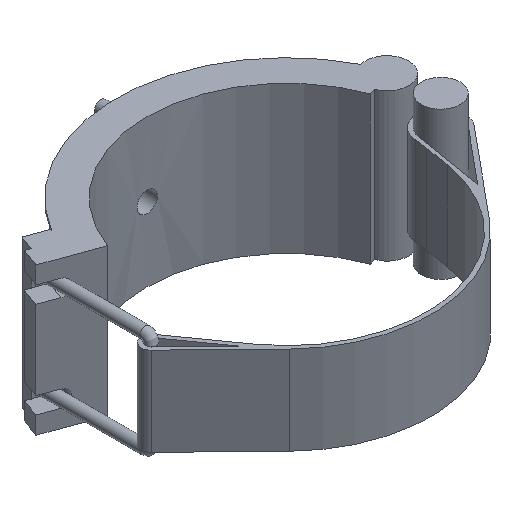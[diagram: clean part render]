
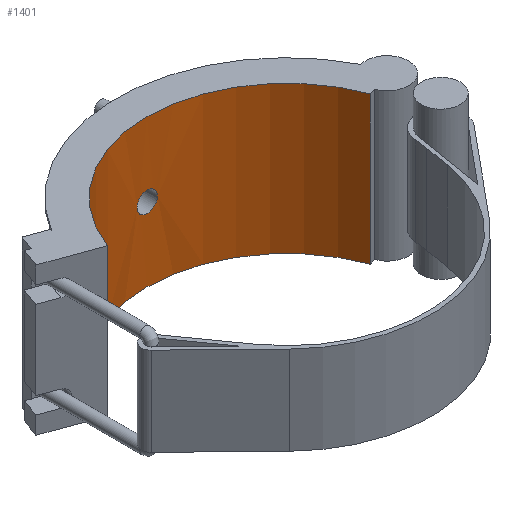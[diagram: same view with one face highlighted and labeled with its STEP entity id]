
A CAD part, isometric view. The second image highlights one B-rep face of the part: STEP entity #1401.
In plain terms, the highlighted cylindrical face has radius 166.9 mm (diameter 333.8 mm), a partial arc.
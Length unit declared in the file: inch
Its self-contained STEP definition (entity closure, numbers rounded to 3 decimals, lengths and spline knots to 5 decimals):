
#31=B_SPLINE_CURVE_WITH_KNOTS('',3,(#2500,#2501,#2502,#2503,#2504,#2505,
#2506,#2507,#2508,#2509,#2510,#2511,#2512,#2513,#2514,#2515,#2516,#2517,
#2518,#2519,#2520,#2521,#2522,#2523,#2524,#2525,#2526,#2527,#2528,#2529,
#2530,#2531,#2532,#2533),.UNSPECIFIED.,.T.,.F.,(4,2,2,2,2,2,2,2,2,2,2,2,
2,2,2,2,4),(0.,0.45658,0.91316,1.36974,1.82632,
2.2829,2.73949,3.19607,3.65265,4.10923,
4.56581,5.02239,5.47897,5.93555,6.39213,
6.84871,7.3053),.UNSPECIFIED.);
#56=CYLINDRICAL_SURFACE('',#1553,6.57087);
#81=FACE_BOUND('',#305,.T.);
#127=CIRCLE('',#1519,6.57087);
#138=CIRCLE('',#1551,6.57087);
#213=FACE_OUTER_BOUND('',#304,.T.);
#304=EDGE_LOOP('',(#1213,#1214,#1215,#1216));
#305=EDGE_LOOP('',(#1217));
#362=LINE('',#2154,#476);
#436=LINE('',#2497,#550);
#476=VECTOR('',#1694,0.3937);
#550=VECTOR('',#1912,0.3937);
#613=VERTEX_POINT('',#2151);
#614=VERTEX_POINT('',#2153);
#655=VERTEX_POINT('',#2286);
#671=VERTEX_POINT('',#2493);
#672=VERTEX_POINT('',#2499);
#751=EDGE_CURVE('',#614,#613,#362,.T.);
#820=EDGE_CURVE('',#614,#655,#127,.T.);
#857=EDGE_CURVE('',#671,#613,#138,.T.);
#858=EDGE_CURVE('',#671,#655,#436,.T.);
#859=EDGE_CURVE('',#672,#672,#31,.T.);
#1213=ORIENTED_EDGE('',*,*,#858,.T.);
#1214=ORIENTED_EDGE('',*,*,#820,.F.);
#1215=ORIENTED_EDGE('',*,*,#751,.T.);
#1216=ORIENTED_EDGE('',*,*,#857,.F.);
#1217=ORIENTED_EDGE('',*,*,#859,.T.);
#1401=ADVANCED_FACE('',(#213,#81),#56,.F.);
#1519=AXIS2_PLACEMENT_3D('',#2287,#1824,#1825);
#1551=AXIS2_PLACEMENT_3D('',#2495,#1908,#1909);
#1553=AXIS2_PLACEMENT_3D('',#2498,#1913,#1914);
#1694=DIRECTION('',(0.,0.,-1.));
#1824=DIRECTION('center_axis',(0.,0.,-1.));
#1825=DIRECTION('ref_axis',(-1.,0.,0.));
#1908=DIRECTION('center_axis',(0.,0.,1.));
#1909=DIRECTION('ref_axis',(-1.,0.,0.));
#1912=DIRECTION('',(0.,0.,1.));
#1913=DIRECTION('center_axis',(0.,0.,1.));
#1914=DIRECTION('ref_axis',(-1.,0.,0.));
#2151=CARTESIAN_POINT('',(-6.17459,2.24737,-3.465));
#2153=CARTESIAN_POINT('',(-6.17459,2.24737,3.465));
#2154=CARTESIAN_POINT('',(-6.17459,2.24737,0.));
#2286=CARTESIAN_POINT('',(6.17459,2.24737,3.465));
#2287=CARTESIAN_POINT('Origin',(0.,0.,3.465));
#2493=CARTESIAN_POINT('',(6.17459,2.24737,-3.465));
#2495=CARTESIAN_POINT('Origin',(0.,0.,-3.465));
#2497=CARTESIAN_POINT('',(6.17459,2.24737,0.));
#2498=CARTESIAN_POINT('Origin',(0.,0.,0.));
#2499=CARTESIAN_POINT('',(0.47702,6.55353,0.));
#2500=CARTESIAN_POINT('Ctrl Pts',(0.47702,6.55353,0.));
#2501=CARTESIAN_POINT('Ctrl Pts',(0.47702,6.55353,-0.05992));
#2502=CARTESIAN_POINT('Ctrl Pts',(0.46504,6.55443,-0.12382));
#2503=CARTESIAN_POINT('Ctrl Pts',(0.41636,6.55771,-0.24134));
#2504=CARTESIAN_POINT('Ctrl Pts',(0.37965,6.56003,-0.29497));
#2505=CARTESIAN_POINT('Ctrl Pts',(0.29497,6.56438,-0.37965));
#2506=CARTESIAN_POINT('Ctrl Pts',(0.24134,6.5667,-0.41636));
#2507=CARTESIAN_POINT('Ctrl Pts',(0.12382,6.56996,-0.46504));
#2508=CARTESIAN_POINT('Ctrl Pts',(0.05992,6.57087,-0.47702));
#2509=CARTESIAN_POINT('Ctrl Pts',(-0.05992,6.57087,
-0.47702));
#2510=CARTESIAN_POINT('Ctrl Pts',(-0.12382,6.56996,-0.46504));
#2511=CARTESIAN_POINT('Ctrl Pts',(-0.24134,6.5667,-0.41636));
#2512=CARTESIAN_POINT('Ctrl Pts',(-0.29497,6.56438,-0.37965));
#2513=CARTESIAN_POINT('Ctrl Pts',(-0.37965,6.56003,-0.29497));
#2514=CARTESIAN_POINT('Ctrl Pts',(-0.41636,6.55771,-0.24134));
#2515=CARTESIAN_POINT('Ctrl Pts',(-0.46504,6.55443,-0.12382));
#2516=CARTESIAN_POINT('Ctrl Pts',(-0.47702,6.55353,-0.05992));
#2517=CARTESIAN_POINT('Ctrl Pts',(-0.47702,6.55353,0.05992));
#2518=CARTESIAN_POINT('Ctrl Pts',(-0.46504,6.55443,0.12382));
#2519=CARTESIAN_POINT('Ctrl Pts',(-0.41636,6.55771,0.24134));
#2520=CARTESIAN_POINT('Ctrl Pts',(-0.37965,6.56003,0.29497));
#2521=CARTESIAN_POINT('Ctrl Pts',(-0.29497,6.56438,0.37965));
#2522=CARTESIAN_POINT('Ctrl Pts',(-0.24134,6.5667,0.41636));
#2523=CARTESIAN_POINT('Ctrl Pts',(-0.12382,6.56996,0.46504));
#2524=CARTESIAN_POINT('Ctrl Pts',(-0.05992,6.57087,
0.47702));
#2525=CARTESIAN_POINT('Ctrl Pts',(0.05992,6.57087,0.47702));
#2526=CARTESIAN_POINT('Ctrl Pts',(0.12382,6.56996,0.46504));
#2527=CARTESIAN_POINT('Ctrl Pts',(0.24134,6.5667,0.41636));
#2528=CARTESIAN_POINT('Ctrl Pts',(0.29497,6.56438,0.37965));
#2529=CARTESIAN_POINT('Ctrl Pts',(0.37965,6.56003,0.29497));
#2530=CARTESIAN_POINT('Ctrl Pts',(0.41636,6.55771,0.24134));
#2531=CARTESIAN_POINT('Ctrl Pts',(0.46504,6.55443,0.12382));
#2532=CARTESIAN_POINT('Ctrl Pts',(0.47702,6.55353,0.05992));
#2533=CARTESIAN_POINT('Ctrl Pts',(0.47702,6.55353,0.));
